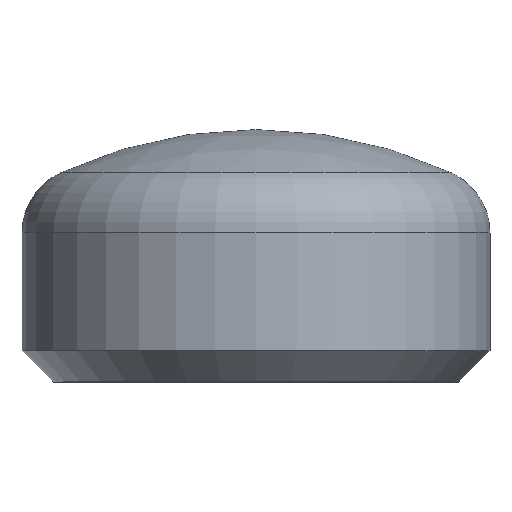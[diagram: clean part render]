
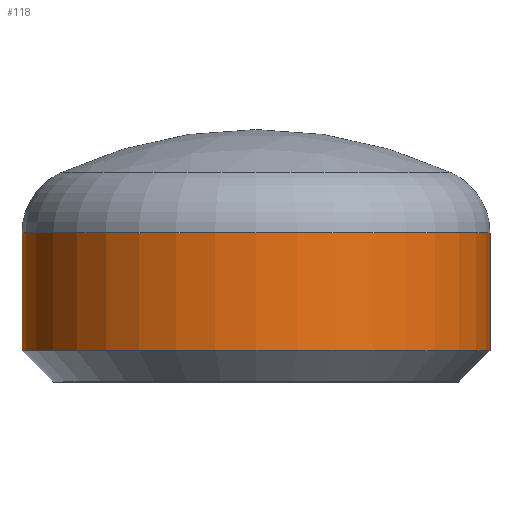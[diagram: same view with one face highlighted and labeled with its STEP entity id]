
A CAD part, top view. The second image highlights one B-rep face of the part: STEP entity #118.
In plain terms, the highlighted cylindrical face has radius 70.65 mm (diameter 141.3 mm), a partial arc.
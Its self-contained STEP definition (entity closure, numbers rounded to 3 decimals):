
#1 = VECTOR ( 'NONE', #25, 1000. ) ;
#13 = EDGE_CURVE ( 'NONE', #184, #156, #270, .T. ) ;
#16 = AXIS2_PLACEMENT_3D ( 'NONE', #388, #218, #135 ) ;
#21 = VECTOR ( 'NONE', #267, 1000. ) ;
#25 = DIRECTION ( 'NONE',  ( 0., 1., 0. ) ) ;
#48 = CARTESIAN_POINT ( 'NONE',  ( 70.65, 2817.965, 0. ) ) ;
#62 = AXIS2_PLACEMENT_3D ( 'NONE', #461, #110, #293 ) ;
#71 = CARTESIAN_POINT ( 'NONE',  ( -70.65, 2817.965, 0. ) ) ;
#75 = CIRCLE ( 'NONE', #16, 70.65 ) ;
#83 = CYLINDRICAL_SURFACE ( 'NONE', #427, 70.65 ) ;
#86 = DIRECTION ( 'NONE',  ( -1., 0., 0. ) ) ;
#102 = ORIENTED_EDGE ( 'NONE', *, *, #13, .T. ) ;
#110 = DIRECTION ( 'NONE',  ( 0., 1., 0. ) ) ;
#118 = ADVANCED_FACE ( 'NONE', ( #409 ), #83, .T. ) ;
#119 = LINE ( 'NONE', #48, #21 ) ;
#135 = DIRECTION ( 'NONE',  ( -1., 0., 0. ) ) ;
#142 = VERTEX_POINT ( 'NONE', #336 ) ;
#150 = EDGE_LOOP ( 'NONE', ( #102, #257, #432, #351 ) ) ;
#156 = VERTEX_POINT ( 'NONE', #159 ) ;
#159 = CARTESIAN_POINT ( 'NONE',  ( 70.65, 9.43, 0. ) ) ;
#184 = VERTEX_POINT ( 'NONE', #311 ) ;
#218 = DIRECTION ( 'NONE',  ( 0., 1., 0. ) ) ;
#220 = EDGE_CURVE ( 'NONE', #142, #224, #75, .T. ) ;
#224 = VERTEX_POINT ( 'NONE', #278 ) ;
#231 = CARTESIAN_POINT ( 'NONE',  ( 0., 2817.965, 0. ) ) ;
#243 = LINE ( 'NONE', #71, #1 ) ;
#257 = ORIENTED_EDGE ( 'NONE', *, *, #348, .T. ) ;
#267 = DIRECTION ( 'NONE',  ( 0., 1., 0. ) ) ;
#270 = CIRCLE ( 'NONE', #62, 70.65 ) ;
#275 = DIRECTION ( 'NONE',  ( 0., 1., 0. ) ) ;
#278 = CARTESIAN_POINT ( 'NONE',  ( 70.65, 44.987, 0. ) ) ;
#293 = DIRECTION ( 'NONE',  ( 1., 0., 0. ) ) ;
#309 = EDGE_CURVE ( 'NONE', #184, #142, #243, .T. ) ;
#311 = CARTESIAN_POINT ( 'NONE',  ( -70.65, 9.43, 0. ) ) ;
#336 = CARTESIAN_POINT ( 'NONE',  ( -70.65, 44.987, 0. ) ) ;
#348 = EDGE_CURVE ( 'NONE', #156, #224, #119, .T. ) ;
#351 = ORIENTED_EDGE ( 'NONE', *, *, #309, .F. ) ;
#388 = CARTESIAN_POINT ( 'NONE',  ( 0., 44.987, 0. ) ) ;
#409 = FACE_OUTER_BOUND ( 'NONE', #150, .T. ) ;
#427 = AXIS2_PLACEMENT_3D ( 'NONE', #231, #275, #86 ) ;
#432 = ORIENTED_EDGE ( 'NONE', *, *, #220, .F. ) ;
#461 = CARTESIAN_POINT ( 'NONE',  ( 0., 9.43, 0. ) ) ;
